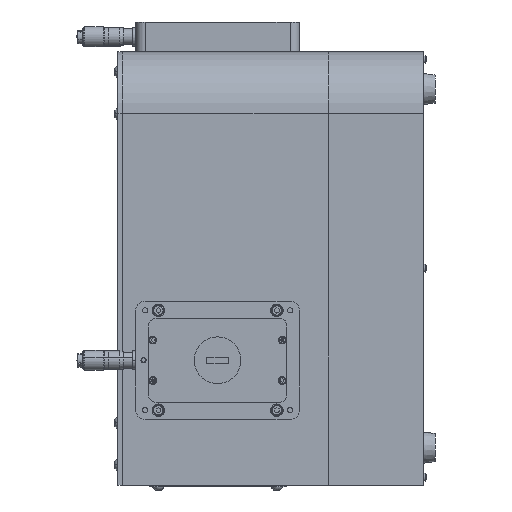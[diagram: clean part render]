
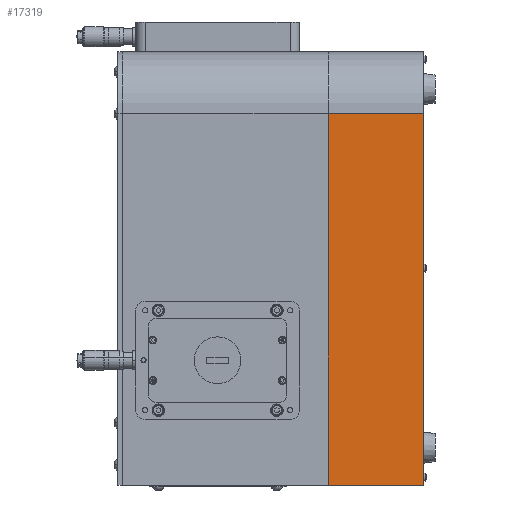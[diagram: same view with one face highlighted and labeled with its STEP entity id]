
A CAD part, left-side view. The second image highlights one B-rep face of the part: STEP entity #17319.
In plain terms, the highlighted planar face has unit normal (-1, 0, 0).
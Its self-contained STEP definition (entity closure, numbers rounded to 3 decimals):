
#833 = CARTESIAN_POINT ( 'NONE',  ( 0., -8., -40. ) ) ;
#1780 = CARTESIAN_POINT ( 'NONE',  ( 0., -69., -278. ) ) ;
#3665 = VERTEX_POINT ( 'NONE', #24541 ) ;
#4682 = EDGE_CURVE ( 'NONE', #8080, #7188, #16140, .T. ) ;
#5138 = DIRECTION ( 'NONE',  ( 0., 0., 1. ) ) ;
#6235 = CARTESIAN_POINT ( 'NONE',  ( 0., -69., -278. ) ) ;
#7188 = VERTEX_POINT ( 'NONE', #21071 ) ;
#7350 = CARTESIAN_POINT ( 'NONE',  ( 0., -69., 0. ) ) ;
#7510 = ORIENTED_EDGE ( 'NONE', *, *, #12356, .T. ) ;
#8080 = VERTEX_POINT ( 'NONE', #6235 ) ;
#10041 = LINE ( 'NONE', #833, #29654 ) ;
#10901 = VECTOR ( 'NONE', #14187, 1000. ) ;
#11179 = EDGE_LOOP ( 'NONE', ( #7510, #27764, #17776, #15427 ) ) ;
#11744 = DIRECTION ( 'NONE',  ( 0., 1., 0. ) ) ;
#11913 = PLANE ( 'NONE',  #25591 ) ;
#12356 = EDGE_CURVE ( 'NONE', #3665, #15779, #25511, .T. ) ;
#13325 = DIRECTION ( 'NONE',  ( 0., 1., 0. ) ) ;
#14187 = DIRECTION ( 'NONE',  ( 0., 0., -1. ) ) ;
#14677 = VECTOR ( 'NONE', #13325, 1000. ) ;
#15292 = CARTESIAN_POINT ( 'NONE',  ( 0., -8., -40. ) ) ;
#15427 = ORIENTED_EDGE ( 'NONE', *, *, #27037, .F. ) ;
#15779 = VERTEX_POINT ( 'NONE', #15292 ) ;
#16140 = LINE ( 'NONE', #1780, #14677 ) ;
#16532 = DIRECTION ( 'NONE',  ( 1., 0., 0. ) ) ;
#17235 = FACE_OUTER_BOUND ( 'NONE', #11179, .T. ) ;
#17319 = ADVANCED_FACE ( 'NONE', ( #17235 ), #11913, .F. ) ;
#17776 = ORIENTED_EDGE ( 'NONE', *, *, #4682, .F. ) ;
#21071 = CARTESIAN_POINT ( 'NONE',  ( 0., -8., -278. ) ) ;
#21097 = CARTESIAN_POINT ( 'NONE',  ( 0., -69., -40. ) ) ;
#22850 = LINE ( 'NONE', #23196, #10901 ) ;
#23143 = EDGE_CURVE ( 'NONE', #7188, #15779, #10041, .T. ) ;
#23196 = CARTESIAN_POINT ( 'NONE',  ( 0., -69., 0. ) ) ;
#24541 = CARTESIAN_POINT ( 'NONE',  ( 0., -69., -40. ) ) ;
#25511 = LINE ( 'NONE', #21097, #27333 ) ;
#25591 = AXIS2_PLACEMENT_3D ( 'NONE', #7350, #16532, #5138 ) ;
#26426 = DIRECTION ( 'NONE',  ( 0., 0., 1. ) ) ;
#27037 = EDGE_CURVE ( 'NONE', #3665, #8080, #22850, .T. ) ;
#27333 = VECTOR ( 'NONE', #11744, 1000. ) ;
#27764 = ORIENTED_EDGE ( 'NONE', *, *, #23143, .F. ) ;
#29654 = VECTOR ( 'NONE', #26426, 1000. ) ;
